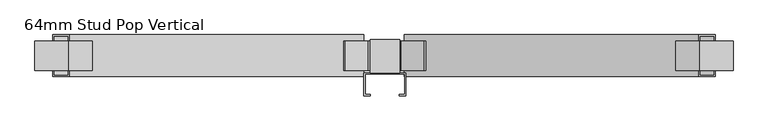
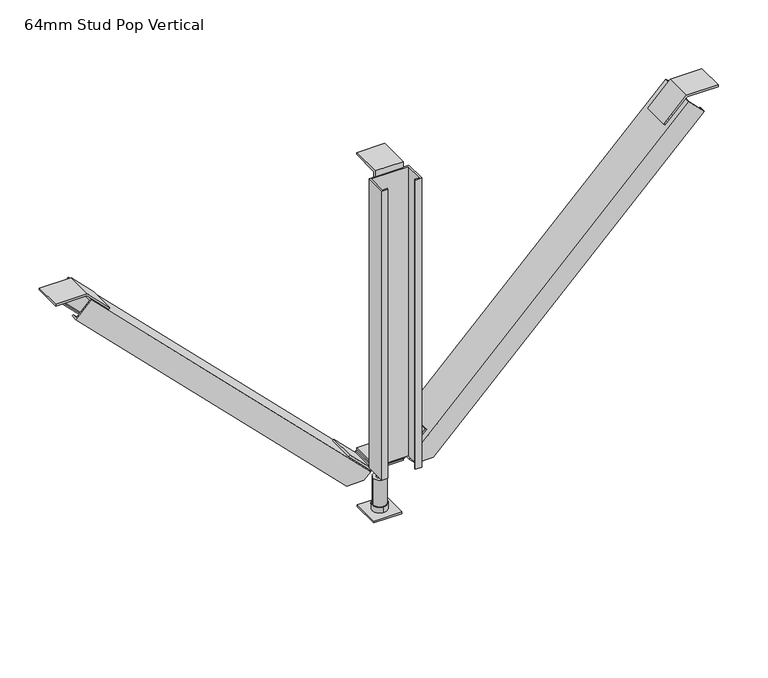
"""IFC4 building model written with IfcOpenShell, lengths in millimetres: beam geometry, Vertibrace 3-way Brace : 64mm Stud Pop Vertical."""

from ifc_helpers import new_model, si_unit, frame, origin, origin_with_axes, place, context, project, spatial, polyline, circle_curve, outline, extrude, faceted_brep, source, transform, mapped, element, save
from ifc_brep_helpers import plane_surface, cylinder_surface, advanced_brep


def beam_64mm_stud_pop_vertical_10145a59(model_context):
    return source(origin(), model_context, "Body", "SolidModel", [
        extrude(outline(polyline([(-23.235654, 597.0013294), (-23.235654, 548.7734408), (-26.2343246, 548.7734408), (-26.2343246, 600.0), (24.9922346, 600.0), (24.9922346, 597.0013294), (-23.235654, 597.0013294)])), frame((-22.5, 0.0, 0.0), z_axis=(1.0, 0.0, 0.0), x_axis=(0.0, 1.0, 0.0)), (0.0, 0.0, 1.0), 45.0),
        extrude(outline(polyline([(547.0013294, 480.8434194), (547.0013294, 530.8278886), (550.0, 530.8278886), (550.0, 479.6013294), (513.7773526, 443.378682), (511.6569723, 445.4990623), (547.0013294, 480.8434194)])), frame((0.0, -22.5, 0.0), z_axis=(0.0, 1.0, 0.0), x_axis=(0.0, 0.0, 1.0)), (0.0, 0.0, 1.0), 45.0),
        extrude(outline(polyline([(547.0013294, -483.535654), (511.6569723, -448.1912969), (513.7773526, -446.0709166), (550.0, -482.293564), (550.0, -533.5201232), (547.0013294, -533.5201232), (547.0013294, -483.535654)])), frame((0.0, -22.5, 0.0), z_axis=(0.0, 1.0, 0.0), x_axis=(0.0, 0.0, 1.0)), (0.0, 0.0, 1.0), 45.0),
        extrude(outline(polyline([(-23.235654, 98.6986706), (24.9922346, 98.6986706), (24.9922346, 95.7), (-26.2343246, 95.7), (-26.2343246, 146.9265592), (-23.235654, 146.9265592), (-23.235654, 98.6986706)])), frame((-22.5, 0.0, 0.0), z_axis=(1.0, 0.0, 0.0), x_axis=(0.0, 1.0, 0.0)), (0.0, 0.0, 1.0), 45.0),
        extrude(outline(polyline([(95.6986706, 24.9922346), (95.6986706, -24.9922346), (92.7, -24.9922346), (92.7, 26.2343246), (128.9226474, 62.456972), (131.0430277, 60.3365917), (95.6986706, 24.9922346)])), frame((0.0, -22.5, 0.0), z_axis=(0.0, 1.0, 0.0), x_axis=(0.0, 0.0, 1.0)), (0.0, 0.0, 1.0), 45.0),
        extrude(outline(polyline([(92.6986706, -24.9922346), (128.0430277, -60.3365917), (125.9226474, -62.456972), (89.7, -26.2343246), (89.7, 24.9922346), (92.6986706, 24.9922346), (92.6986706, -24.9922346)])), frame((0.0, -22.5, 0.0), z_axis=(0.0, 1.0, 0.0), x_axis=(0.0, 0.0, 1.0)), (0.0, 0.0, 1.0), 45.0),
        extrude(outline(polyline([(22.5, 22.5), (22.5, -22.5), (-22.5, -22.5), (-22.5, 22.5), (22.5, 22.5)])), origin_with_axes(), (0.0, 0.0, 1.0), 3.0),
        advanced_brep(
        [(-5.0, 0.0, 0.0), (5.0, 0.0, 0.0), (-5.0, 0.0, 113.0), (5.0, 0.0, 113.0), (5.0, 0.0, 3.0), (-5.0, 0.0, 3.0), (-5.0, 0.0, 110.4), (5.0, 0.0, 110.4), (-5.0, 0.0, 58.0), (5.0, 0.0, 58.0), (5.0, 0.0, 83.0), (-5.0, 0.0, 83.0), (5.0, 0.0, 98.7), (-5.0, 0.0, 98.7), (-5.0, 0.0, 89.7), (5.0, 0.0, 89.7), (-10.5, 0.0, 58.0), (10.5, 0.0, 58.0), (-10.5, 0.0, 13.0), (10.5, 0.0, 13.0), (0.0, -12.0, 13.0), (0.0, 12.0, 13.0), (3.75, 6.4951905, 110.4), (-3.75, 6.4951905, 110.4), (-7.5, 0.0, 110.4), (-3.75, -6.4951905, 110.4), (3.75, -6.4951905, 110.4), (7.5, 0.0, 110.4), (3.75, 6.4951905, 98.7), (7.5, 0.0, 98.7), (3.75, -6.4951905, 98.7), (-3.75, -6.4951905, 98.7), (-7.5, 0.0, 98.7), (-3.75, 6.4951905, 98.7), (-10.9696551, 0.0, 89.7), (-5.4848276, -9.5, 89.7), (5.4848276, -9.5, 89.7), (10.9696551, 0.0, 89.7), (5.4848276, 9.5, 89.7), (-5.4848276, 9.5, 89.7), (-10.9696551, 0.0, 83.0), (-5.4848276, 9.5, 83.0), (5.4848276, 9.5, 83.0), (10.9696551, 0.0, 83.0), (5.4848276, -9.5, 83.0), (-5.4848276, -9.5, 83.0), (0.0, -12.0, 3.0), (0.0, 12.0, 3.0)],
        [
            (0, 1, circle_curve(frame((0.0, 0.0, 0.0), z_axis=(0.0, 0.0, -1.0), x_axis=(1.0, 0.0, 0.0)), 5.0)),
            (1, 0, circle_curve(frame((0.0, 0.0, 0.0), z_axis=(0.0, 0.0, -1.0), x_axis=(1.0, 0.0, 0.0)), 5.0)),
            (2, 3, circle_curve(frame((0.0, 0.0, 113.0), z_axis=(0.0, 0.0, 1.0), x_axis=(1.0, 0.0, 0.0)), 5.0)),
            (3, 2, circle_curve(frame((0.0, 0.0, 113.0), z_axis=(0.0, 0.0, 1.0), x_axis=(1.0, 0.0, 0.0)), 5.0)),
            (1, 4),
            (4, 5, circle_curve(frame((0.0, 0.0, 3.0), z_axis=(0.0, 0.0, -1.0), x_axis=(1.0, 0.0, 0.0)), 5.0)),
            (5, 0),
            (2, 6),
            (6, 7, circle_curve(frame((0.0, 0.0, 110.4), z_axis=(0.0, 0.0, 1.0), x_axis=(1.0, 0.0, 0.0)), 5.0)),
            (7, 3),
            (8, 9, circle_curve(frame((0.0, 0.0, 58.0), z_axis=(0.0, 0.0, 1.0), x_axis=(1.0, 0.0, 0.0)), 5.0)),
            (9, 10),
            (10, 11, circle_curve(frame((0.0, 0.0, 83.0), z_axis=(0.0, 0.0, -1.0), x_axis=(1.0, 0.0, 0.0)), 5.0)),
            (11, 8),
            (12, 13, circle_curve(frame((0.0, 0.0, 98.7), z_axis=(0.0, 0.0, -1.0), x_axis=(1.0, 0.0, 0.0)), 5.0)),
            (13, 14),
            (14, 15, circle_curve(frame((0.0, 0.0, 89.7), z_axis=(0.0, 0.0, 1.0), x_axis=(1.0, 0.0, 0.0)), 5.0)),
            (15, 12),
            (5, 4, circle_curve(frame((0.0, 0.0, 3.0), z_axis=(0.0, 0.0, -1.0), x_axis=(1.0, 0.0, 0.0)), 5.0)),
            (7, 6, circle_curve(frame((0.0, 0.0, 110.4), z_axis=(0.0, 0.0, 1.0), x_axis=(1.0, 0.0, 0.0)), 5.0)),
            (9, 8, circle_curve(frame((0.0, 0.0, 58.0), z_axis=(0.0, 0.0, 1.0), x_axis=(1.0, 0.0, 0.0)), 5.0)),
            (11, 10, circle_curve(frame((0.0, 0.0, 83.0), z_axis=(0.0, 0.0, -1.0), x_axis=(1.0, 0.0, 0.0)), 5.0)),
            (13, 12, circle_curve(frame((0.0, 0.0, 98.7), z_axis=(0.0, 0.0, -1.0), x_axis=(1.0, 0.0, 0.0)), 5.0)),
            (15, 14, circle_curve(frame((0.0, 0.0, 89.7), z_axis=(0.0, 0.0, 1.0), x_axis=(1.0, 0.0, 0.0)), 5.0)),
            (16, 17, circle_curve(frame((0.0, 0.0, 58.0), z_axis=(0.0, 0.0, 1.0), x_axis=(1.0, 0.0, 0.0)), 10.5)),
            (17, 16, circle_curve(frame((0.0, 0.0, 58.0), z_axis=(0.0, 0.0, 1.0), x_axis=(1.0, 0.0, 0.0)), 10.5)),
            (16, 18),
            (18, 19, circle_curve(frame((0.0, 0.0, 13.0), z_axis=(0.0, 0.0, 1.0), x_axis=(1.0, 0.0, 0.0)), 10.5)),
            (19, 17),
            (19, 18, circle_curve(frame((0.0, 0.0, 13.0), z_axis=(0.0, 0.0, 1.0), x_axis=(1.0, 0.0, 0.0)), 10.5)),
            (20, 21, circle_curve(frame((0.0, 0.0, 13.0), z_axis=(0.0, 0.0, 1.0), x_axis=(0.0, 1.0, 0.0)), 12.0)),
            (21, 20, circle_curve(frame((0.0, 0.0, 13.0), z_axis=(0.0, 0.0, 1.0), x_axis=(0.0, 1.0, 0.0)), 12.0)),
            (22, 23),
            (23, 24),
            (24, 25),
            (25, 26),
            (26, 27),
            (27, 22),
            (28, 29),
            (29, 30),
            (30, 31),
            (31, 32),
            (32, 33),
            (33, 28),
            (22, 28),
            (33, 23),
            (32, 24),
            (31, 25),
            (30, 26),
            (29, 27),
            (34, 35),
            (35, 36),
            (36, 37),
            (37, 38),
            (38, 39),
            (39, 34),
            (40, 41),
            (41, 42),
            (42, 43),
            (43, 44),
            (44, 45),
            (45, 40),
            (34, 40),
            (45, 35),
            (44, 36),
            (43, 37),
            (42, 38),
            (41, 39),
            (46, 47, circle_curve(frame((0.0, 0.0, 3.0), z_axis=(0.0, 0.0, -1.0), x_axis=(0.0, 1.0, 0.0)), 12.0)),
            (47, 46, circle_curve(frame((0.0, 0.0, 3.0), z_axis=(0.0, 0.0, -1.0), x_axis=(0.0, 1.0, 0.0)), 12.0)),
            (47, 21),
            (20, 46),
        ],
        [
            plane_surface(frame((5.0, 0.0, 0.0), z_axis=(0.0, 0.0, -1.0), x_axis=(0.0, -1.0, 0.0))),
            plane_surface(frame((5.0, 0.0, 113.0), z_axis=(0.0, 0.0, 1.0), x_axis=(0.0, 1.0, 0.0))),
            cylinder_surface(origin_with_axes(), 5.0),
            plane_surface(frame((10.5, 0.0, 58.0), z_axis=(0.0, 0.0, 1.0), x_axis=(0.0, 1.0, 0.0))),
            cylinder_surface(frame((0.0, 0.0, 13.0), z_axis=(0.0, 0.0, 1.0), x_axis=(1.0, 0.0, 0.0)), 10.5),
            plane_surface(frame((0.0, 12.0, 13.0), z_axis=(0.0, 0.0, 1.0), x_axis=(-1.0, 0.0, 0.0))),
            plane_surface(frame((3.75, 6.4951905, 110.4), z_axis=(0.0, 0.0, 1.0), x_axis=(-1.0, 0.0, 0.0))),
            plane_surface(frame((3.75, 6.4951905, 98.7), z_axis=(0.0, 0.0, -1.0), x_axis=(1.0, 0.0, 0.0))),
            plane_surface(frame((3.75, 6.4951905, 110.4), z_axis=(0.0, 1.0, 0.0), x_axis=(0.0, 0.0, -1.0))),
            plane_surface(frame((-3.75, 6.4951905, 110.4), z_axis=(-0.866025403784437, 0.5000000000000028, 0.0), x_axis=(0.0, 0.0, -1.0))),
            plane_surface(frame((-7.5, 0.0, 110.4), z_axis=(-0.8660254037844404, -0.4999999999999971, 0.0), x_axis=(0.0, 0.0, -1.0))),
            plane_surface(frame((-3.75, -6.4951905, 110.4), z_axis=(0.0, -1.0, 0.0), x_axis=(0.0, 0.0, -1.0))),
            plane_surface(frame((3.75, -6.4951905, 110.4), z_axis=(0.8660254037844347, -0.500000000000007, 0.0), x_axis=(0.0, 0.0, -1.0))),
            plane_surface(frame((7.5, 0.0, 110.4), z_axis=(0.8660254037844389, 0.49999999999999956, 0.0), x_axis=(0.0, 0.0, -1.0))),
            plane_surface(frame((-10.9696551, 0.0, 89.7), z_axis=(0.0, 0.0, 1.0000000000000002), x_axis=(0.4999999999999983, -0.8660254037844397, 0.0))),
            plane_surface(frame((-10.9696551, 0.0, 83.0), z_axis=(0.0, 0.0, -1.0000000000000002), x_axis=(-0.4999999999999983, 0.8660254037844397, 0.0))),
            plane_surface(frame((-10.9696551, 0.0, 89.7), z_axis=(-0.8660254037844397, -0.4999999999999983, 0.0), x_axis=(0.0, 0.0, -1.0))),
            plane_surface(frame((-5.4848276, -9.5, 89.7), z_axis=(0.0, -1.0, 0.0), x_axis=(0.0, 0.0, -1.0))),
            plane_surface(frame((5.4848276, -9.5, 89.7), z_axis=(0.8660254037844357, -0.5000000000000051, 0.0), x_axis=(0.0, 0.0, -1.0))),
            plane_surface(frame((10.9696551, 0.0, 89.7), z_axis=(0.8660254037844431, 0.4999999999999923, 0.0), x_axis=(0.0, 0.0, -1.0))),
            plane_surface(frame((5.4848276, 9.5, 89.7), z_axis=(0.0, 1.0, 0.0), x_axis=(0.0, 0.0, -1.0))),
            plane_surface(frame((-5.4848276, 9.5, 89.7), z_axis=(-0.8660254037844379, 0.5000000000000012, 0.0), x_axis=(0.0, 0.0, -1.0))),
            plane_surface(frame((0.0, 12.0, 3.0), z_axis=(0.0, 0.0, -1.0), x_axis=(1.0, 0.0, 0.0))),
            cylinder_surface(frame((0.0, 0.0, 3.0), z_axis=(0.0, 0.0, 1.0), x_axis=(0.0, 1.0, 0.0)), 12.0),
        ],
        [
            (0, [[1, 2]]),
            (1, [[3, 4]]),
            (2, [[-2, 5, 6, 7]]),
            (2, [[-3, 8, 9, 10]]),
            (2, [[11, 12, 13, 14]]),
            (2, [[15, 16, 17, 18]]),
            (2, [[-1, -7, 19, -5]]),
            (2, [[-4, -10, 20, -8]]),
            (2, [[21, -14, 22, -12]]),
            (2, [[23, -18, 24, -16]]),
            (3, [[25, 26], [-11, -21]]),
            (4, [[-25, 27, 28, 29]]),
            (4, [[-26, -29, 30, -27]]),
            (5, [[31, 32], [-28, -30]]),
            (6, [[33, 34, 35, 36, 37, 38], [-9, -20]]),
            (7, [[39, 40, 41, 42, 43, 44], [-15, -23]]),
            (8, [[-33, 45, -44, 46]]),
            (9, [[-34, -46, -43, 47]]),
            (10, [[-35, -47, -42, 48]]),
            (11, [[-36, -48, -41, 49]]),
            (12, [[-37, -49, -40, 50]]),
            (13, [[-38, -50, -39, -45]]),
            (14, [[51, 52, 53, 54, 55, 56], [-17, -24]]),
            (15, [[57, 58, 59, 60, 61, 62], [-13, -22]]),
            (16, [[-51, 63, -62, 64]]),
            (17, [[-52, -64, -61, 65]]),
            (18, [[-53, -65, -60, 66]]),
            (19, [[-54, -66, -59, 67]]),
            (20, [[-55, -67, -58, 68]]),
            (21, [[-56, -68, -57, -63]]),
            (22, [[69, 70], [-6, -19]]),
            (23, [[-70, 71, -31, 72]]),
            (23, [[-69, -72, -32, -71]]),
        ],
    ),
        extrude(outline(polyline([(32.0, -26.2343246), (32.0, -61.2343246), (22.0, -61.2343246), (22.0, -59.2343246), (30.0, -59.2343246), (30.0, -28.2343246), (-30.0, -28.2343246), (-30.0, -59.2343246), (-22.0, -59.2343246), (-22.0, -61.2343246), (-32.0, -61.2343246), (-32.0, -26.2343246), (32.0, -26.2343246)])), frame((0.0, 0.0, 98.7), z_axis=(0.0, 0.0, 1.0), x_axis=(1.0, 0.0, 0.0)), (0.0, 0.0, 1.0), 491.3),
        faceted_brep([(39.9343246, 30.0, 85.0), (39.9343246, 32.0, 85.0), (68.0317993, 32.0, 85.0), (68.0317993, 22.0, 85.0), (65.2033722, 22.0, 85.0), (65.2033722, 30.0, 85.0), (39.9343246, -32.0, 85.0), (39.9343246, -30.0, 85.0), (65.2033722, -30.0, 85.0), (65.2033722, -22.0, 85.0), (68.0317993, -22.0, 85.0), (68.0317993, -32.0, 85.0), (30.6485382, 30.0, 94.2857864), (30.6485382, -30.0, 94.2857864), (29.2343246, -32.0, 95.7), (29.2343246, 32.0, 95.7), (478.5343246, 32.0, 545.0), (478.5343246, -32.0, 545.0), (503.283062, -32.0, 520.2512627), (503.283062, -22.0, 520.2512627), (501.8688484, -22.0, 521.6654762), (501.8688484, -30.0, 521.6654762), (479.9485382, -30.0, 543.5857864), (479.9485382, 30.0, 543.5857864), (501.8688484, 30.0, 521.6654762), (501.8688484, 22.0, 521.6654762), (503.283062, 22.0, 520.2512627), (503.283062, 32.0, 520.2512627)], [[[0, 1, 2, 3, 4, 5]], [[6, 7, 8, 9, 10, 11]], [[12, 13, 7, 6, 14, 15, 1, 0]], [[16, 17, 18, 19, 20, 21, 22, 23, 24, 25, 26, 27]], [[16, 27, 2, 1, 15]], [[27, 26, 3, 2]], [[26, 25, 4, 3]], [[25, 24, 5, 4]], [[24, 23, 12, 0, 5]], [[13, 12, 23, 22]], [[22, 21, 8, 7, 13]], [[21, 20, 9, 8]], [[20, 19, 10, 9]], [[19, 18, 11, 10]], [[18, 17, 14, 6, 11]], [[15, 14, 17, 16]]]),
        faceted_brep([(-33.9485382, -30.0, 94.5857864), (-33.9485382, 30.0, 94.5857864), (-43.5343246, 30.0, 85.0), (-43.5343246, 32.0, 85.0), (-32.5343246, 32.0, 96.0), (-32.5343246, -32.0, 96.0), (-43.5343246, -32.0, 85.0), (-43.5343246, -30.0, 85.0), (-481.5343246, -32.0, 545.0), (-481.5343246, 32.0, 545.0), (-506.283062, 32.0, 520.2512627), (-506.283062, 22.0, 520.2512627), (-504.8688484, 22.0, 521.6654762), (-504.8688484, 30.0, 521.6654762), (-482.9485382, 30.0, 543.5857864), (-482.9485382, -30.0, 543.5857864), (-504.8688484, -30.0, 521.6654762), (-504.8688484, -22.0, 521.6654762), (-506.283062, -22.0, 520.2512627), (-506.283062, -32.0, 520.2512627), (-71.0317993, -32.0, 85.0), (-71.0317993, -22.0, 85.0), (-71.0317993, 32.0, 85.0), (-68.2033722, 30.0, 85.0), (-68.2033722, 22.0, 85.0), (-71.0317993, 22.0, 85.0), (-68.2033722, -22.0, 85.0), (-68.2033722, -30.0, 85.0)], [[[0, 1, 2, 3, 4, 5, 6, 7]], [[8, 9, 10, 11, 12, 13, 14, 15, 16, 17, 18, 19]], [[8, 19, 20, 6, 5]], [[19, 18, 21, 20]], [[10, 9, 4, 3, 22]], [[5, 4, 9, 8]], [[3, 2, 23, 24, 25, 22]], [[7, 6, 20, 21, 26, 27]], [[18, 17, 26, 21]], [[17, 16, 27, 26]], [[16, 15, 0, 7, 27]], [[1, 0, 15, 14]], [[14, 13, 23, 2, 1]], [[13, 12, 24, 23]], [[12, 11, 25, 24]], [[11, 10, 22, 25]]]),
    ])


if __name__ == "__main__":
    model = new_model("IFC4")
    model_context = context("Model", 3, world=origin())
    ifc_project = project(units=[si_unit("LENGTHUNIT", "METRE", prefix="MILLI")], contexts=[model_context])
    site = spatial("IfcSite", under=ifc_project)
    building = spatial("IfcBuilding", under=site)
    placement = place(None, origin())
    beam_64mm_stud_pop_vertical_shape = beam_64mm_stud_pop_vertical_10145a59(model_context)
    element("IfcBeam", 1, ObjectType="Vertibrace 3-way Brace : 64mm Stud Pop Vertical", at=placement, inside=building, context=model_context, shape_type="MappedRepresentation", body=[
        mapped(beam_64mm_stud_pop_vertical_shape, transform((0.0, 0.0, 0.0), x_axis=(1.0, 0.0, 0.0), y_axis=(0.0, 1.0, 0.0), z_axis=(0.0, 0.0, 1.0))),
    ])
    save(model, "model.ifc")
